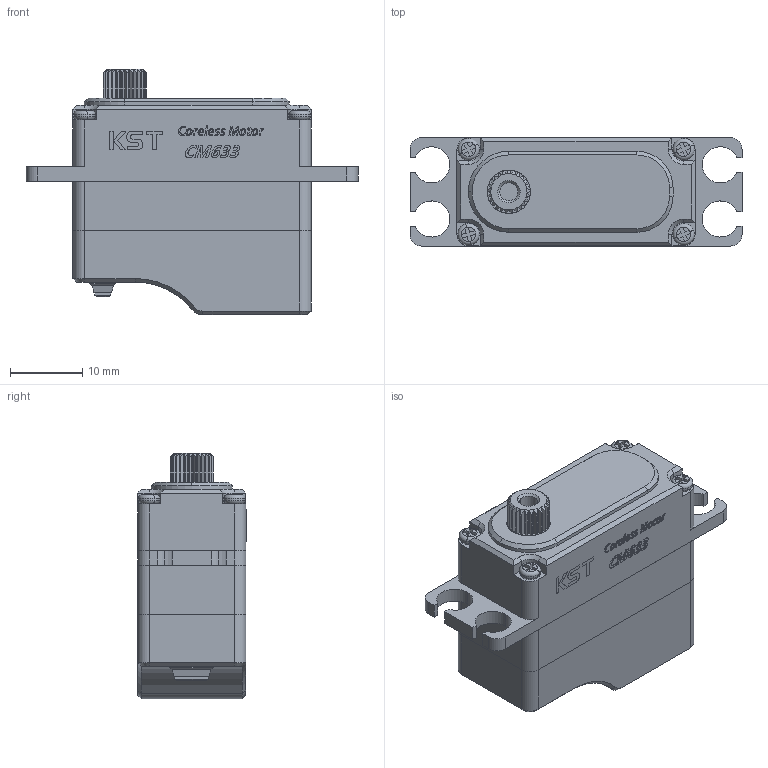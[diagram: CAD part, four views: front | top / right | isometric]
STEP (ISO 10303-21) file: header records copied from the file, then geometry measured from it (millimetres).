
FILE_DESCRIPTION (( 'STEP AP214' ), '1' );
FILE_NAME ('CM633_DM_202403.STEP', '2024-03-27T02:38:41', ( '' ), ( '' ), 'SwSTEP 2.0', 'SolidWorks 2016', '' );
FILE_SCHEMA (( 'AUTOMOTIVE_DESIGN' ));
Length unit declared in the file: millimetre
Products named in the file (1): CM633_DM_202403
Bounding box: 46 x 15.04 x 34 mm (x, y, z)
Surface area: 4417.3 mm2 (no closed solid volume)
Topology: 0 solids, 30 shells, 534 faces, 1615 edges, 1114 vertices
Faces by surface type: plane 289, cylinder 116, bspline 93, cone 20, torus 16
Entity records: 29082 total; most frequent: CARTESIAN_POINT 9583, ORIENTED_EDGE 2741, DIRECTION 2537, EDGE_CURVE 1615, VERTEX_POINT 1114, LINE 997, VECTOR 997, AXIS2_PLACEMENT_3D 770
